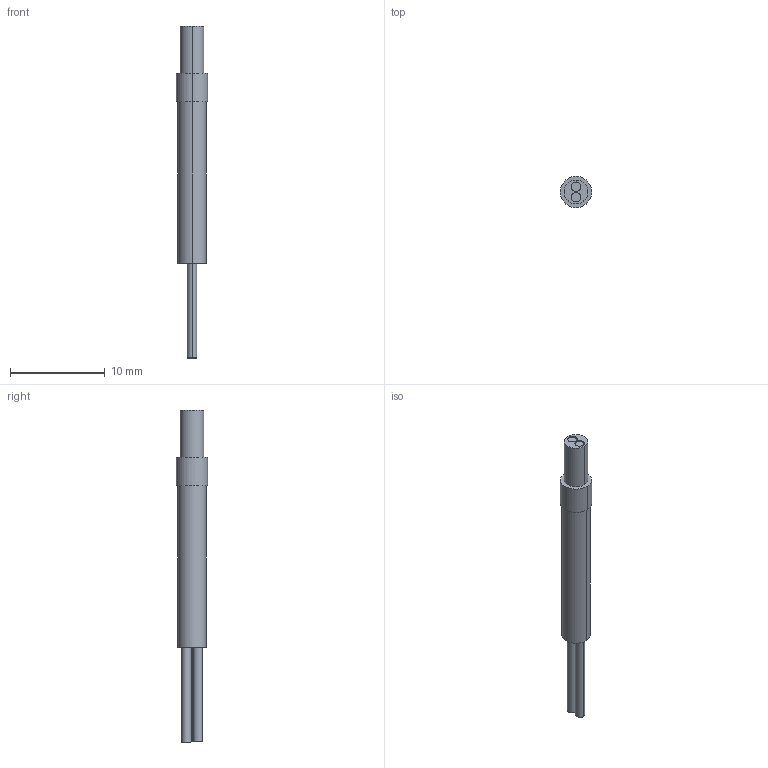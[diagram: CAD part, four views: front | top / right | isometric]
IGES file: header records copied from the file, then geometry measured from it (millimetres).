
Start section: SolidWorks IGES FILE using analytic representation for surfaces
Global section: file name: C:\Documents and Settings\yk0651\デスクトップ\3D_catalog_050904\0_IGES\FD-SNFM2.IGS; native system: SolidWorks 2004 by SolidWorks Corporation; preprocessor: Version 5.3; author: yk0651; date: 050904.191946; units: millimetre
Bounding box: 3.3 x 3.3 x 35 mm (x, y, z)
Volume: 185.9 mm3; surface area: 311.2 mm2
Topology: 1 solids, 1 shells, 22 faces, 42 edges, 28 vertices
Faces by surface type: revolution 14, plane 8
